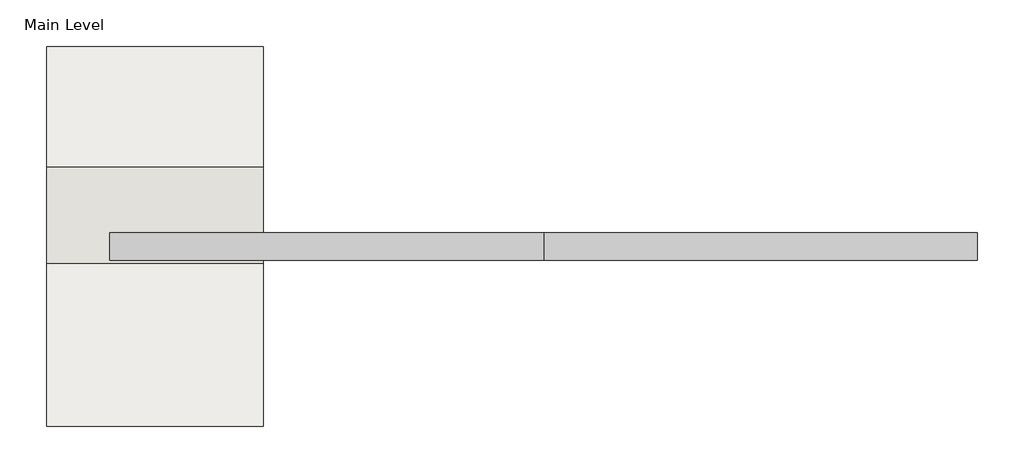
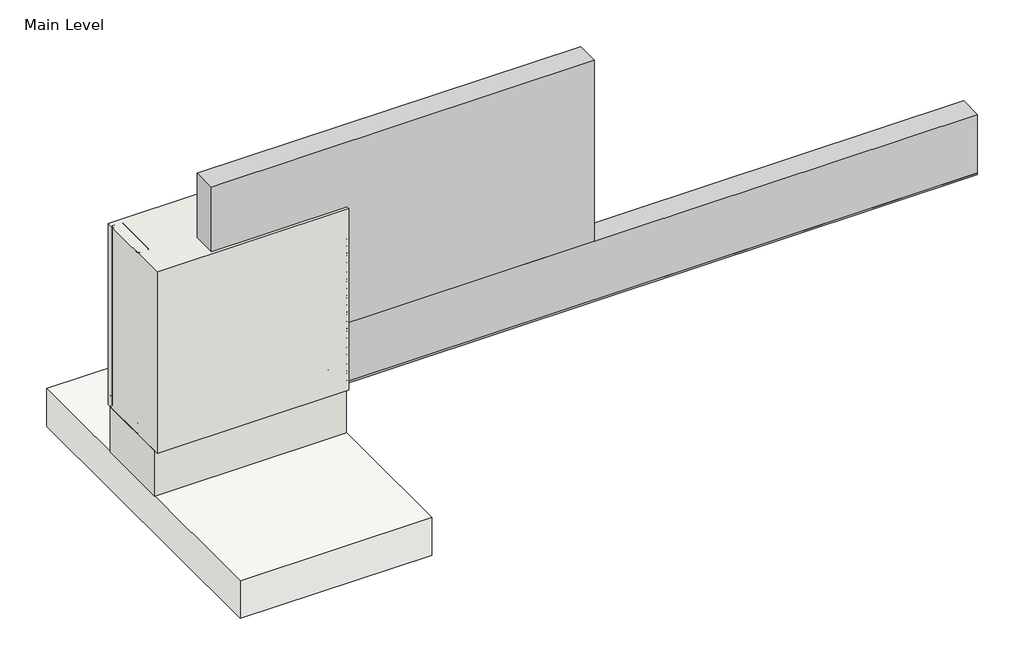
# One storey, incomplete: 14 proxies, 2 walls, 1 slab.
"""IFC4 building model written with IfcOpenShell, lengths in millimetres."""

from ifc_helpers import new_model, si_unit, frame, origin, origin_with_axes, place, context, project, spatial, polyline, outline, extrude, transform, mapped, element, save
from components import generic_models_31547c53, generic_models_0bbfdc8f, generic_models_1e1ad44f, generic_models_7dd17a53, generic_models_441de798, generic_models_9d0e7a2a, generic_models_03ec6e0e, proxy_81afb05a, proxy_e5e434bb, wood_blocking_c9818c35

model = new_model("IFC4")

# Units and contexts
model_context = context("Model", 3, world=origin())
ifc_project = project(units=[si_unit("LENGTHUNIT", "METRE", prefix="MILLI")], contexts=[model_context])

# Site, building, storey
site = spatial("IfcSite", under=ifc_project)
building = spatial("IfcBuilding", under=site)
storey = spatial("IfcBuildingStorey", under=building, Name="Main Level", Elevation=0.0)

# Proxies
placement = place(None, origin())
generic_models_shape = generic_models_31547c53(model_context)
element("IfcBuildingElementProxy", 1, Name="Durabond Generic Model Sealant Vent : Durabond Generic Model Sealant Vent", ObjectType="Durabond Generic Model Sealant Vent : Durabond Generic Model Sealant Vent", at=placement, inside=storey, context=model_context, shape_type="MappedRepresentation", body=[
    mapped(generic_models_shape, transform((26865.4101773, 546.8432813, 8.5594788), x_axis=(1.0, 0.0, 0.0), y_axis=(0.0, 0.08715574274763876, -0.9961946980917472), z_axis=(0.0, 0.9961946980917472, 0.08715574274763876))),
])
generic_models_2_shape = generic_models_0bbfdc8f(model_context)
generic_models_3_shape = generic_models_1e1ad44f(model_context)
generic_models_4_shape = generic_models_7dd17a53(model_context)
generic_models_5_shape = generic_models_441de798(model_context)
element("IfcBuildingElementProxy", 2, Name="CRAi Generic Model Mesh Piece Face Based : CRAi Generic Model Mesh Piece Face Based", ObjectType="CRAi Generic Model Mesh Piece Face Based : CRAi Generic Model Mesh Piece Face Based", at=placement, inside=storey, context=model_context, shape_type="MappedRepresentation", body=[
    mapped(generic_models_2_shape, transform((26933.6726773, 541.9066297, 261.6963215), x_axis=(-1.0, 0.0, 0.0), y_axis=(0.0, 0.0, -1.0), z_axis=(0.0, -1.0, 0.0))),
    mapped(generic_models_3_shape, transform((26933.6726773, 541.9066297, 261.6963215), x_axis=(-1.0, 0.0, 0.0), y_axis=(0.0, 0.0, -1.0), z_axis=(0.0, -1.0, 0.0))),
    mapped(generic_models_4_shape, transform((26933.6726773, 541.9066297, 261.6963215), x_axis=(-1.0, 0.0, 0.0), y_axis=(0.0, 0.0, -1.0), z_axis=(0.0, -1.0, 0.0))),
    mapped(generic_models_5_shape, transform((26933.6726773, 541.9066297, 261.6963215), x_axis=(-1.0, 0.0, 0.0), y_axis=(0.0, 0.0, -1.0), z_axis=(0.0, -1.0, 0.0))),
])
generic_models_6_shape = generic_models_9d0e7a2a(model_context)
element("IfcBuildingElementProxy", 3, Name="CRAi Generic Model Metal Stud Array : CRAi Generic Model Metal Stud Array", ObjectType="CRAi Generic Model Metal Stud Array : CRAi Generic Model Metal Stud Array", at=placement, inside=storey, context=model_context, shape_type="MappedRepresentation", body=[
    mapped(generic_models_6_shape, transform((26692.3726773, 719.7066297, 6.35), x_axis=(-1.0, 0.0, 0.0), y_axis=(0.0, -1.0, 0.0), z_axis=(0.0, 0.0, 1.0))),
])
generic_models_7_shape = generic_models_03ec6e0e(model_context)
element("IfcBuildingElementProxy", 4, Name="CRAi Generic Model Drywall Screw : CRAi Generic Model Drywall Screw", ObjectType="CRAi Generic Model Drywall Screw : CRAi Generic Model Drywall Screw", at=placement, inside=storey, context=model_context, shape_type="MappedRepresentation", body=[
    mapped(generic_models_7_shape, transform((26508.2226773, 627.6316297, 25.4), x_axis=(1.0, 0.0, 0.0), y_axis=(0.0, 0.0, 1.0), z_axis=(0.0, -1.0, 0.0))),
])
element("IfcBuildingElementProxy", 5, Name="CRAi Generic Model Drywall Screw : CRAi Generic Model Drywall Screw", ObjectType="CRAi Generic Model Drywall Screw : CRAi Generic Model Drywall Screw", at=placement, inside=storey, context=model_context, shape_type="MappedRepresentation", body=[
    mapped(generic_models_7_shape, transform((26508.2226773, 627.6316297, 215.9), x_axis=(1.0, 0.0, 0.0), y_axis=(0.0, 0.0, 1.0), z_axis=(0.0, -1.0, 0.0))),
])
element("IfcBuildingElementProxy", 6, Name="CRAi Generic Model Drywall Screw : CRAi Generic Model Drywall Screw", ObjectType="CRAi Generic Model Drywall Screw : CRAi Generic Model Drywall Screw", at=placement, inside=storey, context=model_context, shape_type="MappedRepresentation", body=[
    mapped(generic_models_7_shape, transform((26508.2226773, 627.6316297, 406.4), x_axis=(1.0, 0.0, 0.0), y_axis=(0.0, 0.0, 1.0), z_axis=(0.0, -1.0, 0.0))),
])
element("IfcBuildingElementProxy", 7, Name="CRAi Generic Model Drywall Screw : CRAi Generic Model Drywall Screw", ObjectType="CRAi Generic Model Drywall Screw : CRAi Generic Model Drywall Screw", at=placement, inside=storey, context=model_context, shape_type="MappedRepresentation", body=[
    mapped(generic_models_7_shape, transform((26508.2226773, 627.6316297, 596.9), x_axis=(1.0, 0.0, 0.0), y_axis=(0.0, 0.0, 1.0), z_axis=(0.0, -1.0, 0.0))),
])
element("IfcBuildingElementProxy", 8, Name="CRAi Generic Model Drywall Screw : CRAi Generic Model Drywall Screw", ObjectType="CRAi Generic Model Drywall Screw : CRAi Generic Model Drywall Screw", at=placement, inside=storey, context=model_context, shape_type="MappedRepresentation", body=[
    mapped(generic_models_7_shape, transform((26876.5226773, 627.6316297, 25.4), x_axis=(1.0, 0.0, 0.0), y_axis=(0.0, 0.0, 1.0), z_axis=(0.0, -1.0, 0.0))),
])
element("IfcBuildingElementProxy", 9, Name="CRAi Generic Model Drywall Screw : CRAi Generic Model Drywall Screw", ObjectType="CRAi Generic Model Drywall Screw : CRAi Generic Model Drywall Screw", at=placement, inside=storey, context=model_context, shape_type="MappedRepresentation", body=[
    mapped(generic_models_7_shape, transform((26876.5226773, 627.6316297, 215.9), x_axis=(1.0, 0.0, 0.0), y_axis=(0.0, 0.0, 1.0), z_axis=(0.0, -1.0, 0.0))),
])
element("IfcBuildingElementProxy", 10, Name="CRAi Generic Model Drywall Screw : CRAi Generic Model Drywall Screw", ObjectType="CRAi Generic Model Drywall Screw : CRAi Generic Model Drywall Screw", at=placement, inside=storey, context=model_context, shape_type="MappedRepresentation", body=[
    mapped(generic_models_7_shape, transform((26876.5226773, 627.6316297, 406.4), x_axis=(1.0, 0.0, 0.0), y_axis=(0.0, 0.0, 1.0), z_axis=(0.0, -1.0, 0.0))),
])
element("IfcBuildingElementProxy", 11, Name="CRAi Generic Model Drywall Screw : CRAi Generic Model Drywall Screw", ObjectType="CRAi Generic Model Drywall Screw : CRAi Generic Model Drywall Screw", at=placement, inside=storey, context=model_context, shape_type="MappedRepresentation", body=[
    mapped(generic_models_7_shape, transform((26876.5226773, 627.6316297, 596.9), x_axis=(1.0, 0.0, 0.0), y_axis=(0.0, 0.0, 1.0), z_axis=(0.0, -1.0, 0.0))),
])
proxy_shape = proxy_81afb05a(model_context)
element("IfcBuildingElementProxy", 12, Name="Durabond Generic Model Equalite Insulation Board : 3\"", ObjectType="Durabond Generic Model Equalite Insulation Board : 3\"", at=placement, inside=storey, context=model_context, shape_type="MappedRepresentation", body=[
    mapped(proxy_shape, transform((27276.5726773, 624.4566297, 523.392643), x_axis=(1.0, 0.0, 0.0), y_axis=(0.0, 0.0, 1.0), z_axis=(0.0, -1.0, 0.0))),
])
proxy_2_shape = proxy_e5e434bb(model_context)
element("IfcBuildingElementProxy", 13, Name="Durabond Generic Model Equalite Vent Board : 3\"", ObjectType="Durabond Generic Model Equalite Vent Board : 3\"", at=placement, inside=storey, context=model_context, shape_type="MappedRepresentation", body=[
    mapped(proxy_2_shape, transform((27886.1726773, 624.4566297, 116.992643), x_axis=(1.0, 0.0, 0.0), y_axis=(0.0, 0.0, 1.0), z_axis=(0.0, -1.0, 0.0))),
])
wood_blocking_shape = wood_blocking_c9818c35(model_context)
element("IfcBuildingElementProxy", 14, Name="CRAi Generic Model Line Based Metal Framing Track : Wood Blocking", ObjectType="CRAi Generic Model Line Based Metal Framing Track : Wood Blocking", at=placement, inside=storey, context=model_context, shape_type="MappedRepresentation", body=[
    mapped(wood_blocking_shape, transform((26489.1726773, 643.5066297, 0.0), x_axis=(1.0, 0.0, 0.0), y_axis=(0.0, 1.0, 0.0), z_axis=(0.0, 0.0, 1.0))),
])

# Slab
element("IfcSlab", 15, ObjectType="CRAi Concrete Floor - 5\"", at=placement, inside=storey, context=model_context, shape_type="SweptSolid", body=[
    extrude(outline(polyline([(27098.7726773, 81.5316297), (26489.1726773, 81.5316297), (26489.1726773, 1148.3316297), (27098.7726773, 1148.3316297), (27098.7726773, 81.5316297)])), frame((0.0, 0.0, -279.4), z_axis=(0.0, 0.0, 1.0), x_axis=(1.0, 0.0, 0.0)), (0.0, 0.0, 1.0), 127.0),
])

# Walls
element("IfcWall", 16, ObjectType="189mm (7.5”) EIFS Field Applied on Mtl. Stud Layer - 50mm Grooved Insulation Board Metal Stud Wall(AirStop) 2", at=placement, inside=storey, context=model_context, shape_type="SweptSolid", body=[
    extrude(outline(polyline([(27098.7726773, 538.7316297), (26489.1726773, 538.7316297), (26489.1726773, 808.6066297), (27098.7726773, 808.6066297), (27098.7726773, 538.7316297)])), origin_with_axes(), (0.0, 0.0, 1.0), 609.6),
])
element("IfcWall", 17, ObjectType="Durabond 10\" Concrete Wall 2", at=placement, inside=storey, context=model_context, shape_type="SweptSolid", body=[
    extrude(outline(polyline([(27098.7726773, 551.4316297), (26489.1726773, 551.4316297), (26489.1726773, 795.9066297), (27098.7726773, 795.9066297), (27098.7726773, 551.4316297)])), frame((0.0, 0.0, -152.4), z_axis=(0.0, 0.0, 1.0), x_axis=(1.0, 0.0, 0.0)), (0.0, 0.0, 1.0), 152.4),
])

save(model, "model.ifc")
